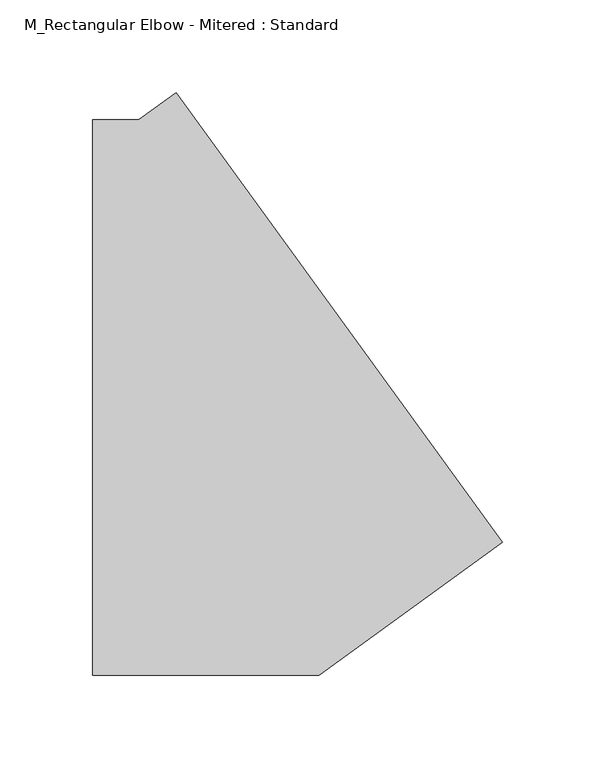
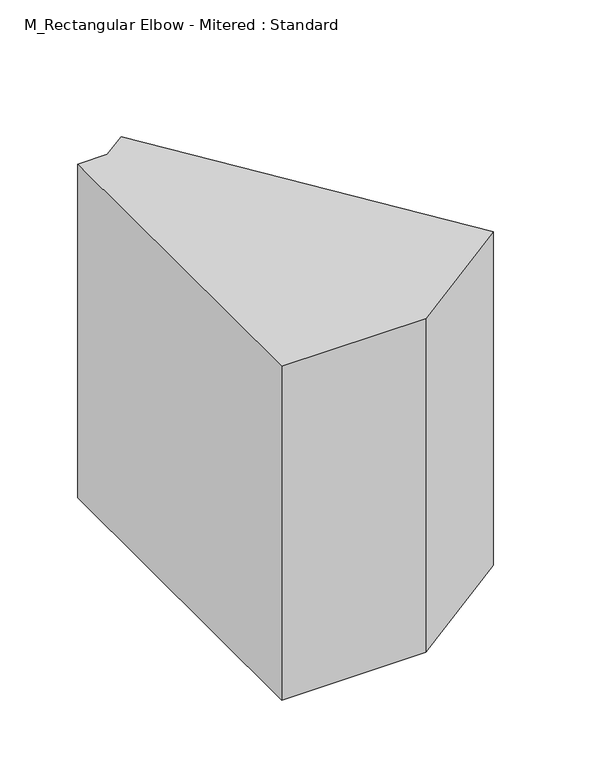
"""IFC4 building model written with IfcOpenShell, lengths in millimetres: duct fitting geometry, M_Rectangular Elbow - Mitered : Standard."""

from ifc_helpers import new_model, si_unit, frame, origin, place, context, project, spatial, polyline, outline, extrude, source, transform, mapped, element, save


def m_rectangular_elbow_mitered_standard_30ebb5b0(model_context):
    return source(origin(), model_context, "Body", "SweptSolid", [
        extrude(outline(polyline([(-73.7379544, -150.0), (-73.7379544, 150.0), (-48.7379544, 150.0), (-28.5125296, 164.6946313), (147.8230461, -78.010467), (48.7379544, -150.0), (-73.7379544, -150.0)])), frame((0.0, 0.0, -150.0), z_axis=(0.0, 0.0, 1.0), x_axis=(1.0, 0.0, 0.0)), (0.0, 0.0, 1.0), 300.0),
    ])


if __name__ == "__main__":
    model = new_model("IFC4")
    model_context = context("Model", 3, world=origin())
    ifc_project = project(units=[si_unit("LENGTHUNIT", "METRE", prefix="MILLI")], contexts=[model_context])
    site = spatial("IfcSite", under=ifc_project)
    building = spatial("IfcBuilding", under=site)
    placement = place(None, origin())
    m_rectangular_elbow_mitered_standard_shape = m_rectangular_elbow_mitered_standard_30ebb5b0(model_context)
    element("IfcDuctFitting", 1, ObjectType="M_Rectangular Elbow - Mitered : Standard", at=placement, inside=building, context=model_context, shape_type="MappedRepresentation", body=[
        mapped(m_rectangular_elbow_mitered_standard_shape, transform((0.0, 0.0, 0.0), x_axis=(1.0, 0.0, 0.0), y_axis=(0.0, 1.0, 0.0), z_axis=(0.0, 0.0, 1.0))),
    ])
    save(model, "model.ifc")
